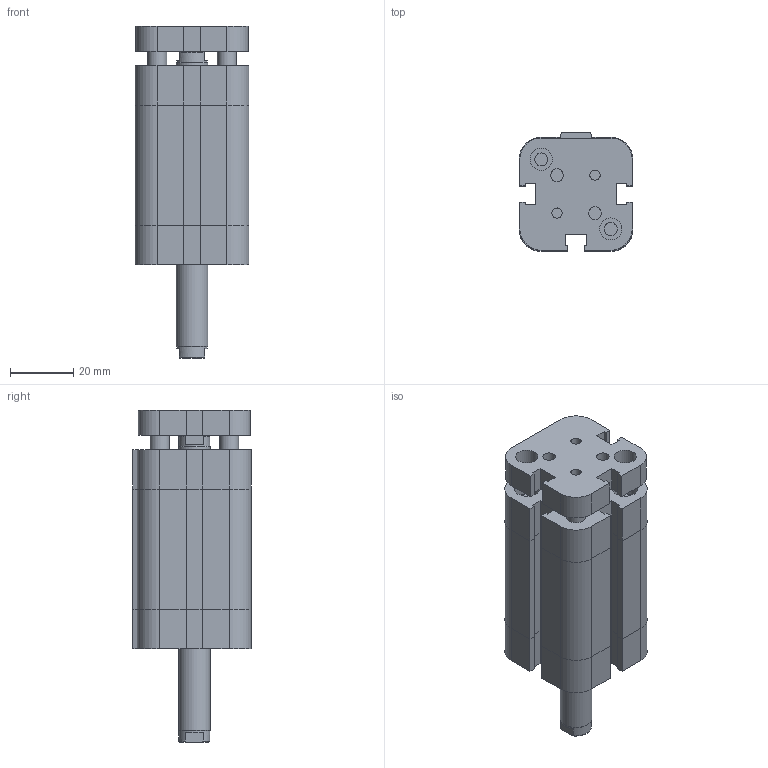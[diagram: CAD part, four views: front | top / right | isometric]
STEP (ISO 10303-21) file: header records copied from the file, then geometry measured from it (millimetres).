
FILE_DESCRIPTION((''),'2;1');
FILE_NAME('I:\Area Tecnica\Disegni\VARIE-3D\Componenti\EUROPE\15##_###_####_08_#\1581_20_0025_08_1.iam.stp','2009-04-20T15:30:22',(''),(''),'Autodesk Inventor 2009','Autodesk Inventor 2009','');
FILE_SCHEMA(('AUTOMOTIVE_DESIGN { 1 0 10303 214 1 1 1 1 }'));
Length unit declared in the file: millimetre
Products named in the file (3): 1581_20_0025_08_1; 1581_20_0025_08_1_C; 1561_20_0025_08_1_SA
Assembly tree (2 placements, depth 2):
  1581_20_0025_08_1
    1581_20_0025_08_1_C
    1561_20_0025_08_1_SA
Bounding box: 36 x 37.5 x 105 mm (x, y, z)
Volume: 83117.5 mm3; surface area: 26866.4 mm2
Topology: 2 solids, 2 shells, 209 faces, 490 edges, 306 vertices
Faces by surface type: plane 135, bspline 47, cylinder 21, cone 6
Full cylindrical faces by diameter (mm): 6 x2, 9.8 x2, 10 x1
Entity records: 6154 total; most frequent: CARTESIAN_POINT 1453, ORIENTED_EDGE 884, DIRECTION 862, EDGE_CURVE 442, VECTOR 340, LINE 340, VERTEX_POINT 290, EDGE_LOOP 276
